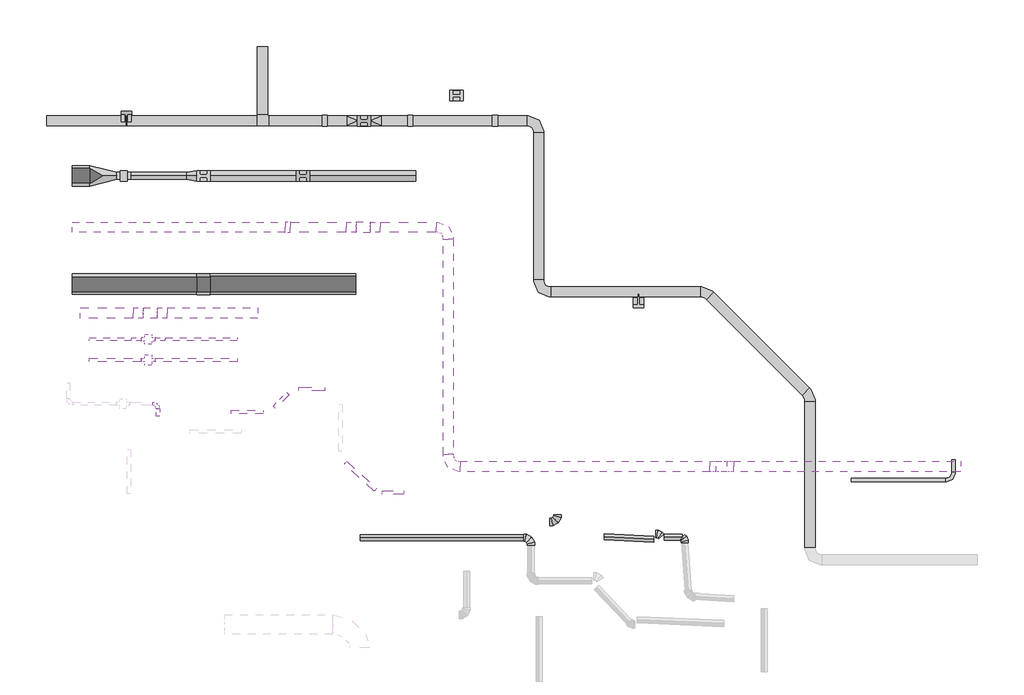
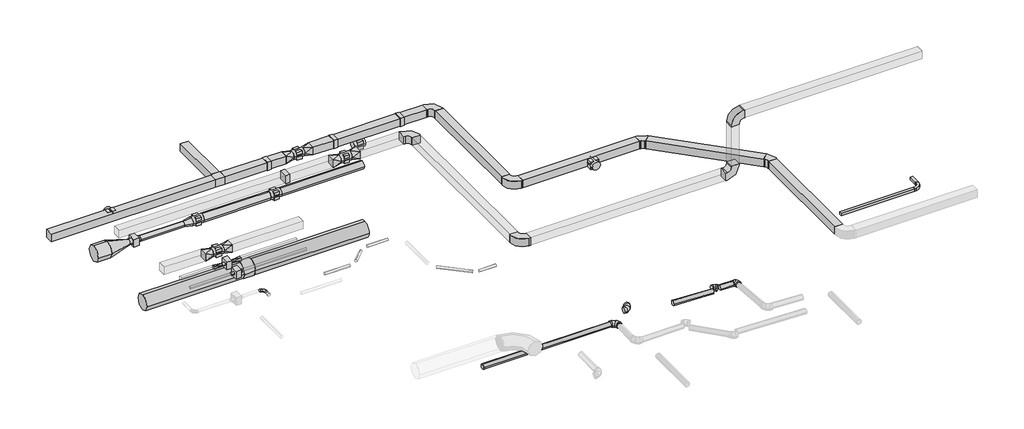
# One storey, part 3 of 3: 41 duct segments, 25 duct fittings, 16 dampers.
"""IFC4 building model written with IfcOpenShell, lengths in millimetres."""

from ifc_helpers import new_model, si_unit, point, frame, frame_2d, origin, place, context, project, spatial, polyline, circle_curve, trimmed, segment, composite_curve, outline, extrude, transform, mapped, element, save
from components import damper_0c93a5dd, damper_ff8d0813, damper_bce11e16, damper_74110298, damper_48ec160e, duct_fitting_2c290df5, duct_fitting_4f8e1142, duct_fitting_99cd3f61, duct_fitting_a30e5cd5, duct_fitting_a57c2913, duct_fitting_9d7b7e6b, duct_fitting_752f6e0b, duct_fitting_a8517f71, duct_fitting_6987a024, duct_fitting_e2463d5c, duct_fitting_11af5ff6, duct_fitting_1_5_d_8d1b72b4

model = new_model("IFC4")

# Units and contexts
model_context = context("Model", 3, world=origin())
ifc_project = project(units=[si_unit("LENGTHUNIT", "METRE", prefix="MILLI")], contexts=[model_context])

# Site, building, storey
site = spatial("IfcSite", under=ifc_project)
building = spatial("IfcBuilding", under=site)
storey = spatial("IfcBuildingStorey", under=building, Name="Уровень 1", Elevation=0.0)

# Dampers
placement = place(None, origin())
damper_shape = damper_0c93a5dd(model_context)
element("IfcDamper", 1, ObjectType="M_Противопожарный демпфер - Прямоугольный - Простой : Стандартное", at=placement, inside=storey, context=model_context, shape_type="MappedRepresentation", body=[
    mapped(damper_shape, transform((-9775.4202347, 9458.2450975, 2750.0), x_axis=(-1.0, 0.0, 0.0), y_axis=(0.0, 1.0, 0.0), z_axis=(0.0, 0.0, -1.0))),
])
element("IfcDamper", 2, ObjectType="M_Противопожарный демпфер - Прямоугольный - Простой : Стандартное", at=placement, inside=storey, context=model_context, shape_type="MappedRepresentation", body=[
    mapped(damper_shape, transform((-6189.1138294, 12570.5517507, 1000.0), x_axis=(-1.0, 0.0, 0.0), y_axis=(0.0, 1.0, 0.0), z_axis=(0.0, 0.0, -1.0))),
])
element("IfcDamper", 3, ObjectType="M_Противопожарный демпфер - Прямоугольный - Простой : Стандартное", at=placement, inside=storey, context=model_context, shape_type="MappedRepresentation", body=[
    mapped(damper_shape, transform((-8683.1649931, 12570.5517507, 1000.0), x_axis=(-1.0, 0.0, 0.0), y_axis=(0.0, 1.0, 0.0), z_axis=(0.0, 0.0, -1.0))),
])
element("IfcDamper", 4, ObjectType="M_Противопожарный демпфер - Прямоугольный - Простой : Стандартное", at=placement, inside=storey, context=model_context, shape_type="MappedRepresentation", body=[
    mapped(damper_shape, transform((-3705.3143272, 12570.5517507, 1000.0), x_axis=(1.0, 0.0, 0.0), y_axis=(0.0, -1.0, 0.0), z_axis=(0.0, 0.0, -1.0))),
])
damper_2_shape = damper_ff8d0813(model_context)
element("IfcDamper", 5, ObjectType="06_Клапан_Размер соединителя-2 : 02_Клапан_Геометрия", at=placement, inside=storey, context=model_context, shape_type="MappedRepresentation", body=[
    mapped(damper_2_shape, transform((-4834.007203, 13308.3419544, 0.0), x_axis=(1.0, 0.0, 0.0), y_axis=(0.0, 1.0, 0.0), z_axis=(0.0, 0.0, 1.0))),
])
element("IfcDamper", 6, ObjectType="06_Клапан_Размер соединителя-2 : 02_Клапан_Геометрия", at=placement, inside=storey, context=model_context, shape_type="MappedRepresentation", body=[
    mapped(damper_2_shape, transform((-14494.7036197, 12645.5517507, 1000.0), x_axis=(0.0, 1.0, 0.0), y_axis=(-1.0, 0.0, 0.0), z_axis=(0.0, 0.0, 1.0))),
])
element("IfcDamper", 7, ObjectType="06_Клапан_Размер соединителя-2 : 02_Клапан_Геометрия", at=placement, inside=storey, context=model_context, shape_type="MappedRepresentation", body=[
    mapped(damper_2_shape, transform((493.946574, 7295.5517507, 1000.0), x_axis=(0.0, -1.0, 0.0), y_axis=(1.0, 0.0, 0.0), z_axis=(0.0, 0.0, 1.0))),
])
element("IfcDamper", 8, ObjectType="06_Клапан_Размер соединителя-2 : 02_Клапан_Геометрия", at=placement, inside=storey, context=model_context, shape_type="MappedRepresentation", body=[
    mapped(damper_2_shape, transform((-7536.501235, 12570.5517507, 1000.0), x_axis=(-1.0, 0.0, 0.0), y_axis=(0.0, 1.0, 0.0), z_axis=(0.0, 0.0, -1.0))),
])
element("IfcDamper", 9, ObjectType="06_Клапан_Размер соединителя-2 : 02_Клапан_Геометрия", at=placement, inside=storey, context=model_context, shape_type="MappedRepresentation", body=[
    mapped(damper_2_shape, transform((-7563.4194422, 9458.2450975, 2750.0), x_axis=(-1.0, 0.0, 0.0), y_axis=(0.0, 1.0, 0.0), z_axis=(0.0, 0.0, -1.0))),
])
element("IfcDamper", 10, ObjectType="06_Клапан_Размер соединителя-2 : 02_Клапан_Геометрия", at=placement, inside=storey, context=model_context, shape_type="MappedRepresentation", body=[
    mapped(damper_2_shape, transform((-9321.3648344, 10960.1974756, 1000.0), x_axis=(-1.0, 0.0, 0.0), y_axis=(0.0, 1.0, 0.0), z_axis=(0.0, 0.0, -1.0))),
])
element("IfcDamper", 11, ObjectType="06_Клапан_Размер соединителя-2 : 02_Клапан_Геометрия", at=placement, inside=storey, context=model_context, shape_type="MappedRepresentation", body=[
    mapped(damper_2_shape, transform((-12231.8206268, 10960.1974756, 1000.0), x_axis=(1.0, 0.0, 0.0), y_axis=(0.0, -1.0, 0.0), z_axis=(0.0, 0.0, -1.0))),
])
element("IfcDamper", 12, ObjectType="06_Клапан_Размер соединителя-2 : 02_Клапан_Геометрия", at=placement, inside=storey, context=model_context, shape_type="MappedRepresentation", body=[
    mapped(damper_2_shape, transform((-13795.6135805, 6945.790393, 2750.0), x_axis=(-1.0, 0.0, 0.0), y_axis=(0.0, 1.0, 0.0), z_axis=(0.0, 0.0, -1.0))),
])
damper_3_shape = damper_bce11e16(model_context)
element("IfcDamper", 13, ObjectType="06_Клапан_Размер соединителя-2 : 02_Клапан_Геометрия", at=placement, inside=storey, context=model_context, shape_type="MappedRepresentation", body=[
    mapped(damper_3_shape, transform((-14568.1259124, 10960.1974756, 1000.0), x_axis=(1.0, 0.0, 0.0), y_axis=(0.0, -1.0, 0.0), z_axis=(0.0, 0.0, -1.0))),
])
damper_4_shape = damper_74110298(model_context)
element("IfcDamper", 14, ObjectType="06_Клапан_Размер соединителя-2 : 02_Клапан_Геометрия", at=placement, inside=storey, context=model_context, shape_type="MappedRepresentation", body=[
    mapped(damper_4_shape, transform((-12231.8206268, 7794.5757224, 1000.0), x_axis=(-1.0, 0.0, 0.0), y_axis=(0.0, 1.0, 0.0), z_axis=(0.0, 0.0, -1.0))),
])
damper_5_shape = damper_48ec160e(model_context)
element("IfcDamper", 15, ObjectType="06_Клапан_Размер соединителя-2 : 02_Клапан_Геометрия", at=placement, inside=storey, context=model_context, shape_type="MappedRepresentation", body=[
    mapped(damper_5_shape, transform((-13851.8196439, 6179.5294121, 2750.0), x_axis=(-1.0, 0.0, 0.0), y_axis=(0.0, 1.0, 0.0), z_axis=(0.0, 0.0, -1.0))),
])
element("IfcDamper", 16, ObjectType="06_Клапан_Размер соединителя-2 : 02_Клапан_Геометрия", at=placement, inside=storey, context=model_context, shape_type="MappedRepresentation", body=[
    mapped(damper_5_shape, transform((-13851.8196439, 5570.4133082, 2750.0), x_axis=(-1.0, 0.0, 0.0), y_axis=(0.0, 1.0, 0.0), z_axis=(0.0, 0.0, -1.0))),
])

# Duct fittings
duct_fitting_shape = duct_fitting_2c290df5(model_context)
element("IfcDuctFitting", 17, ObjectType="M_Тройник прямоугольного сечения : Стандартное", at=placement, inside=storey, context=model_context, shape_type="MappedRepresentation", body=[
    mapped(duct_fitting_shape, transform((-10506.2349188, 12570.5517507, 1000.0), x_axis=(-1.0, 0.0, 0.0), y_axis=(0.0, -1.0, 0.0), z_axis=(0.0, 0.0, 1.0))),
])
duct_fitting_2_shape = duct_fitting_4f8e1142(model_context)
element("IfcDuctFitting", 18, ObjectType="Отвод прямоугольного сечения : Стандартное", at=placement, inside=storey, context=model_context, shape_type="MappedRepresentation", body=[
    mapped(duct_fitting_2_shape, transform((9715.7471245, 2056.8482103, 0.0), x_axis=(1.0, 0.0, 0.0), y_axis=(0.0, 1.0, 0.0), z_axis=(0.0, 0.0, 1.0))),
])
duct_fitting_3_shape = duct_fitting_99cd3f61(model_context)
element("IfcDuctFitting", 19, ObjectType="Отвод прямоугольного сечения : Стандартное", at=placement, inside=storey, context=model_context, shape_type="MappedRepresentation", body=[
    mapped(duct_fitting_3_shape, transform((-5076.4186496, 9458.2450975, 2750.0), x_axis=(0.0, 1.0, 0.0), y_axis=(-1.0, 0.0, 0.0), z_axis=(0.0, 0.0, 1.0))),
])
element("IfcDuctFitting", 20, ObjectType="Отвод прямоугольного сечения : Стандартное", at=placement, inside=storey, context=model_context, shape_type="MappedRepresentation", body=[
    mapped(duct_fitting_3_shape, transform((-5076.4186496, 2458.2450975, 2750.0), x_axis=(0.0, -1.0, 0.0), y_axis=(1.0, 0.0, 0.0), z_axis=(0.0, 0.0, 1.0))),
])
element("IfcDuctFitting", 21, ObjectType="Отвод прямоугольного сечения : Стандартное", at=placement, inside=storey, context=model_context, shape_type="MappedRepresentation", body=[
    mapped(duct_fitting_3_shape, transform((2923.5813504, 2458.2450975, 2750.0), x_axis=(1.0, 0.0, 0.0), y_axis=(0.0, 0.0, 1.0), z_axis=(0.0, -1.0, 0.0))),
])
element("IfcDuctFitting", 22, ObjectType="Отвод прямоугольного сечения : Стандартное", at=placement, inside=storey, context=model_context, shape_type="MappedRepresentation", body=[
    mapped(duct_fitting_3_shape, transform((2923.5813504, 2458.2450975, 5000.0), x_axis=(0.0, 0.0, 1.0), y_axis=(1.0, 0.0, 0.0), z_axis=(0.0, 1.0, 0.0))),
])
element("IfcDuctFitting", 23, ObjectType="Отвод прямоугольного сечения : Стандартное", at=placement, inside=storey, context=model_context, shape_type="MappedRepresentation", body=[
    mapped(duct_fitting_3_shape, transform((-2428.4587957, 7570.5517507, 1000.0), x_axis=(0.0, -1.0, 0.0), y_axis=(1.0, 0.0, 0.0), z_axis=(0.0, 0.0, 1.0))),
])
element("IfcDuctFitting", 24, ObjectType="Отвод прямоугольного сечения : Стандартное", at=placement, inside=storey, context=model_context, shape_type="MappedRepresentation", body=[
    mapped(duct_fitting_3_shape, transform((-2428.4587957, 12570.5517507, 1000.0), x_axis=(0.0, 1.0, 0.0), y_axis=(-1.0, 0.0, 0.0), z_axis=(0.0, 0.0, 1.0))),
])
duct_fitting_4_shape = duct_fitting_a30e5cd5(model_context)
element("IfcDuctFitting", 25, ObjectType="Отвод прямоугольного сечения : Стандартное", at=placement, inside=storey, context=model_context, shape_type="MappedRepresentation", body=[
    mapped(duct_fitting_4_shape, transform((2471.5412043, 7570.5517507, 1000.0), x_axis=(-0.7071067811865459, 0.7071067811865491, 0.0), y_axis=(-0.7071067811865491, -0.7071067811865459, 0.0), z_axis=(0.0, 0.0, 1.0))),
])
element("IfcDuctFitting", 26, ObjectType="Отвод прямоугольного сечения : Стандартное", at=placement, inside=storey, context=model_context, shape_type="MappedRepresentation", body=[
    mapped(duct_fitting_4_shape, transform((5512.1003634, 4529.9925916, 1000.0), x_axis=(0.0, 1.0, 0.0), y_axis=(-1.0, 0.0, 0.0), z_axis=(0.0, 0.0, 1.0))),
])
duct_fitting_5_shape = duct_fitting_a57c2913(model_context)
element("IfcDuctFitting", 27, ObjectType="Переходник с круглого на прямоугольное сечение - Длина : Стандартное", at=placement, inside=storey, context=model_context, shape_type="MappedRepresentation", body=[
    mapped(duct_fitting_5_shape, transform((-7036.501235, 12570.5517507, 1000.0), x_axis=(-1.0, 0.0, 0.0), y_axis=(0.0, -1.0, 0.0), z_axis=(0.0, 0.0, 1.0))),
])
element("IfcDuctFitting", 28, ObjectType="Переходник с круглого на прямоугольное сечение - Длина : Стандартное", at=placement, inside=storey, context=model_context, shape_type="MappedRepresentation", body=[
    mapped(duct_fitting_5_shape, transform((-8036.501235, 12570.5517507, 1000.0), x_axis=(1.0, 0.0, 0.0), y_axis=(0.0, 1.0, 0.0), z_axis=(0.0, 0.0, 1.0))),
])
element("IfcDuctFitting", 29, ObjectType="Переходник с круглого на прямоугольное сечение - Длина : Стандартное", at=placement, inside=storey, context=model_context, shape_type="MappedRepresentation", body=[
    mapped(duct_fitting_5_shape, transform((-7063.4194422, 9458.2450975, 2750.0), x_axis=(-1.0, 0.0, 0.0), y_axis=(0.0, -1.0, 0.0), z_axis=(0.0, 0.0, 1.0))),
])
element("IfcDuctFitting", 30, ObjectType="Переходник с круглого на прямоугольное сечение - Длина : Стандартное", at=placement, inside=storey, context=model_context, shape_type="MappedRepresentation", body=[
    mapped(duct_fitting_5_shape, transform((-8063.4194422, 9458.2450975, 2750.0), x_axis=(1.0, 0.0, 0.0), y_axis=(0.0, 1.0, 0.0), z_axis=(0.0, 0.0, 1.0))),
])
element("IfcDuctFitting", 31, ObjectType="Переходник с круглого на прямоугольное сечение - Длина : Стандартное", at=placement, inside=storey, context=model_context, shape_type="MappedRepresentation", body=[
    mapped(duct_fitting_5_shape, transform((-14295.6135805, 6945.790393, 2750.0), x_axis=(1.0, 0.0, 0.0), y_axis=(0.0, 1.0, 0.0), z_axis=(0.0, 0.0, 1.0))),
])
element("IfcDuctFitting", 32, ObjectType="Переходник с круглого на прямоугольное сечение - Длина : Стандартное", at=placement, inside=storey, context=model_context, shape_type="MappedRepresentation", body=[
    mapped(duct_fitting_5_shape, transform((-13295.6135805, 6945.790393, 2750.0), x_axis=(-1.0, 0.0, 0.0), y_axis=(0.0, -1.0, 0.0), z_axis=(0.0, 0.0, 1.0))),
])
duct_fitting_6_shape = duct_fitting_9d7b7e6b(model_context)
element("IfcDuctFitting", 33, ObjectType="Переходник круглого сечения - Длина : Стандартное", at=placement, inside=storey, context=model_context, shape_type="MappedRepresentation", body=[
    mapped(duct_fitting_6_shape, transform((-12431.8206268, 10960.1974756, 1000.0), x_axis=(-1.0, 0.0, 0.0), y_axis=(0.0, -1.0, 0.0), z_axis=(0.0, 0.0, 1.0))),
])
duct_fitting_7_shape = duct_fitting_752f6e0b(model_context)
element("IfcDuctFitting", 34, ObjectType="Переходник круглого сечения - Длина : Стандартное", at=placement, inside=storey, context=model_context, shape_type="MappedRepresentation", body=[
    mapped(duct_fitting_7_shape, transform((-14768.1259124, 10960.1974756, 1000.0), x_axis=(-1.0, 0.0, 0.0), y_axis=(0.0, -1.0, 0.0), z_axis=(0.0, 0.0, 1.0))),
])
duct_fitting_8_shape = duct_fitting_a8517f71(model_context)
element("IfcDuctFitting", 35, ObjectType="Переходник с круглого на прямоугольное сечение - Длина : Стандартное", at=placement, inside=storey, context=model_context, shape_type="MappedRepresentation", body=[
    mapped(duct_fitting_8_shape, transform((-13351.8196439, 6179.5294121, 2750.0), x_axis=(-1.0, 0.0, 0.0), y_axis=(0.0, -1.0, 0.0), z_axis=(0.0, 0.0, 1.0))),
])
element("IfcDuctFitting", 36, ObjectType="Переходник с круглого на прямоугольное сечение - Длина : Стандартное", at=placement, inside=storey, context=model_context, shape_type="MappedRepresentation", body=[
    mapped(duct_fitting_8_shape, transform((-14351.8196439, 6179.5294121, 2750.0), x_axis=(1.0, 0.0, 0.0), y_axis=(0.0, 1.0, 0.0), z_axis=(0.0, 0.0, 1.0))),
])
duct_fitting_9_shape = duct_fitting_6987a024(model_context)
element("IfcDuctFitting", 37, ObjectType="17_Отвод_Заключение : 10_Отвод_3D объект", at=placement, inside=storey, context=model_context, shape_type="MappedRepresentation", body=[
    mapped(duct_fitting_9_shape, transform((-2651.1464957, 371.254435, 0.0), x_axis=(0.0, 1.0, 0.0), y_axis=(-1.0, 0.0, 0.0), z_axis=(0.0, 0.0, 1.0))),
])
element("IfcDuctFitting", 38, ObjectType="17_Отвод_Заключение : 10_Отвод_3D объект", at=placement, inside=storey, context=model_context, shape_type="MappedRepresentation", body=[
    mapped(duct_fitting_9_shape, transform((-1880.7478471, 833.8542134, 0.0), x_axis=(1.0, 0.0, 0.0), y_axis=(0.0, 1.0, 0.0), z_axis=(0.0, 0.0, 1.0))),
])
duct_fitting_10_shape = duct_fitting_e2463d5c(model_context)
element("IfcDuctFitting", 39, ObjectType="17_Отвод_Заключение : 10_Отвод_3D объект", at=placement, inside=storey, context=model_context, shape_type="MappedRepresentation", body=[
    mapped(duct_fitting_10_shape, transform((1094.8228712, 478.2195209, 0.0), x_axis=(-0.6881343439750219, 0.7255832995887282, 0.0), y_axis=(-0.7255832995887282, -0.6881343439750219, 0.0), z_axis=(0.0, 0.0, 1.0))),
])
duct_fitting_11_shape = duct_fitting_11af5ff6(model_context)
element("IfcDuctFitting", 40, ObjectType="17_Отвод_Заключение : 10_Отвод_3D объект", at=placement, inside=storey, context=model_context, shape_type="MappedRepresentation", body=[
    mapped(duct_fitting_11_shape, transform((1847.6526506, 321.4935281, 0.0), x_axis=(0.0, 1.0, 0.0), y_axis=(-1.0, 0.0, 0.0), z_axis=(0.0, 0.0, 1.0))),
])
duct_fitting_1_5_d_shape = duct_fitting_1_5_d_8d1b72b4(model_context)
element("IfcDuctFitting", 41, ObjectType="M_Отвод круглого сечения : 1.5 D", at=placement, inside=storey, context=model_context, shape_type="MappedRepresentation", body=[
    mapped(duct_fitting_1_5_d_shape, transform((-13572.4563214, 4293.0138469, 2750.0), x_axis=(0.0, 1.0, 0.0), y_axis=(-1.0, 0.0, 0.0), z_axis=(0.0, 0.0, 1.0))),
])

# Duct segments
element("IfcDuctSegment", 42, ObjectType="Закругленные отводы / тройники", at=placement, inside=storey, context=model_context, shape_type="SweptSolid", body=[
    extrude(outline(polyline([(-7063.4194422, 9308.2450975), (-7063.4194422, 9608.2450975), (-5426.4186496, 9608.2450975), (-5426.4186496, 9308.2450975), (-7063.4194422, 9308.2450975)])), frame((0.0, 0.0, 2600.0), z_axis=(0.0, 0.0, 1.0), x_axis=(1.0, 0.0, 0.0)), (0.0, 0.0, 1.0), 300.0),
])
element("IfcDuctSegment", 43, ObjectType="Закругленные отводы / тройники", at=placement, inside=storey, context=model_context, shape_type="SweptSolid", body=[
    extrude(outline(polyline([(-5226.4186496, 9108.2450975), (-4926.4186496, 9108.2450975), (-4926.4186496, 2808.2450975), (-5226.4186496, 2808.2450975), (-5226.4186496, 9108.2450975)])), frame((0.0, 0.0, 2600.0), z_axis=(0.0, 0.0, 1.0), x_axis=(1.0, 0.0, 0.0)), (0.0, 0.0, 1.0), 300.0),
])
element("IfcDuctSegment", 44, ObjectType="Закругленные отводы / тройники", at=placement, inside=storey, context=model_context, shape_type="SweptSolid", body=[
    extrude(outline(polyline([(-4726.4186496, 2308.2450975), (-4726.4186496, 2608.2450975), (2573.5813504, 2608.2450975), (2573.5813504, 2308.2450975), (-4726.4186496, 2308.2450975)])), frame((0.0, 0.0, 2600.0), z_axis=(0.0, 0.0, 1.0), x_axis=(1.0, 0.0, 0.0)), (0.0, 0.0, 1.0), 300.0),
])
element("IfcDuctSegment", 45, ObjectType="Закругленные отводы / тройники", at=placement, inside=storey, context=model_context, shape_type="SweptSolid", body=[
    extrude(outline(polyline([(3273.5813504, 2308.2450975), (3273.5813504, 2608.2450975), (9923.5813504, 2608.2450975), (9923.5813504, 2308.2450975), (3273.5813504, 2308.2450975)])), frame((0.0, 0.0, 4850.0), z_axis=(0.0, 0.0, 1.0), x_axis=(1.0, 0.0, 0.0)), (0.0, 0.0, 1.0), 300.0),
])
element("IfcDuctSegment", 46, ObjectType="Закругленные отводы / тройники", at=placement, inside=storey, context=model_context, shape_type="SweptSolid", body=[
    extrude(outline(polyline([(3073.5813504, 2608.2450975), (3073.5813504, 2308.2450975), (2773.5813504, 2308.2450975), (2773.5813504, 2608.2450975), (3073.5813504, 2608.2450975)])), frame((0.0, 0.0, 3100.0), z_axis=(0.0, 0.0, 1.0), x_axis=(1.0, 0.0, 0.0)), (0.0, 0.0, 1.0), 1550.0),
])
element("IfcDuctSegment", 47, ObjectType="Закругленные отводы / тройники", at=placement, inside=storey, context=model_context, shape_type="SweptSolid", body=[
    extrude(outline(polyline([(-16076.4186496, 9308.2450975), (-16076.4186496, 9608.2450975), (-9850.4202347, 9608.2450975), (-9850.4202347, 9308.2450975), (-16076.4186496, 9308.2450975)])), frame((0.0, 0.0, 2600.0), z_axis=(0.0, 0.0, 1.0), x_axis=(1.0, 0.0, 0.0)), (0.0, 0.0, 1.0), 300.0),
])
element("IfcDuctSegment", 48, ObjectType="Закругленные отводы / тройники", at=placement, inside=storey, context=model_context, shape_type="SweptSolid", body=[
    extrude(outline(polyline([(-3780.3143272, 12720.5517507), (-3780.3143272, 12420.5517507), (-6114.1138294, 12420.5517507), (-6114.1138294, 12720.5517507), (-3780.3143272, 12720.5517507)])), frame((0.0, 0.0, 850.0), z_axis=(0.0, 0.0, 1.0), x_axis=(1.0, 0.0, 0.0)), (0.0, 0.0, 1.0), 300.0),
])
element("IfcDuctSegment", 49, ObjectType="Закругленные отводы / тройники", at=placement, inside=storey, context=model_context, shape_type="SweptSolid", body=[
    extrude(outline(polyline([(-2578.4587957, 12220.5517507), (-2278.4587957, 12220.5517507), (-2278.4587957, 7920.5517507), (-2578.4587957, 7920.5517507), (-2578.4587957, 12220.5517507)])), frame((0.0, 0.0, 850.0), z_axis=(0.0, 0.0, 1.0), x_axis=(1.0, 0.0, 0.0)), (0.0, 0.0, 1.0), 300.0),
])
element("IfcDuctSegment", 50, ObjectType="Закругленные отводы / тройники", at=placement, inside=storey, context=model_context, shape_type="SweptSolid", body=[
    extrude(outline(polyline([(-2078.4587957, 7420.5517507), (-2078.4587957, 7720.5517507), (2297.2771355, 7720.5517507), (2297.2771355, 7420.5517507), (-2078.4587957, 7420.5517507)])), frame((0.0, 0.0, 850.0), z_axis=(0.0, 0.0, 1.0), x_axis=(1.0, 0.0, 0.0)), (0.0, 0.0, 1.0), 300.0),
])
element("IfcDuctSegment", 51, ObjectType="Закругленные отводы / тройники", at=placement, inside=storey, context=model_context, shape_type="SweptSolid", body=[
    extrude(outline(polyline([(2488.6984918, 7341.2624289), (2700.8305261, 7553.3944632), (5494.9430758, 4759.2819135), (5282.8110415, 4547.1498792), (2488.6984918, 7341.2624289)])), frame((0.0, 0.0, 850.0), z_axis=(0.0, 0.0, 1.0), x_axis=(1.0, 0.0, 0.0)), (0.0, 0.0, 1.0), 300.0),
])
element("IfcDuctSegment", 52, ObjectType="Закругленные отводы / тройники", at=placement, inside=storey, context=model_context, shape_type="SweptSolid", body=[
    extrude(outline(polyline([(5362.1003634, 4355.7285229), (5662.1003634, 4355.7285229), (5662.1003634, 79.9925916), (5362.1003634, 79.9925916), (5362.1003634, 4355.7285229)])), frame((0.0, 0.0, 850.0), z_axis=(0.0, 0.0, 1.0), x_axis=(1.0, 0.0, 0.0)), (0.0, 0.0, 1.0), 300.0),
])
element("IfcDuctSegment", 53, ObjectType="Закругленные отводы / тройники", at=placement, inside=storey, context=model_context, shape_type="SweptSolid", body=[
    extrude(outline(polyline([(-10356.2349188, 12745.5517507), (-10656.2349188, 12745.5517507), (-10656.2349188, 14745.5517507), (-10356.2349188, 14745.5517507), (-10356.2349188, 12745.5517507)])), frame((0.0, 0.0, 850.0), z_axis=(0.0, 0.0, 1.0), x_axis=(1.0, 0.0, 0.0)), (0.0, 0.0, 1.0), 300.0),
])
element("IfcDuctSegment", 54, ObjectType="Закругленные отводы / тройники", at=placement, inside=storey, context=model_context, shape_type="SweptSolid", body=[
    extrude(outline(polyline([(-7036.501235, 12420.5517507), (-7036.501235, 12720.5517507), (-6264.1138294, 12720.5517507), (-6264.1138294, 12420.5517507), (-7036.501235, 12420.5517507)])), frame((0.0, 0.0, 850.0), z_axis=(0.0, 0.0, 1.0), x_axis=(1.0, 0.0, 0.0)), (0.0, 0.0, 1.0), 300.0),
])
element("IfcDuctSegment", 55, ObjectType="Закругленные отводы / тройники", at=placement, inside=storey, context=model_context, shape_type="SweptSolid", body=[
    extrude(outline(polyline([(-10681.2349188, 12720.5517507), (-10681.2349188, 12420.5517507), (-16828.4587957, 12420.5517507), (-16828.4587957, 12720.5517507), (-10681.2349188, 12720.5517507)])), frame((0.0, 0.0, 850.0), z_axis=(0.0, 0.0, 1.0), x_axis=(1.0, 0.0, 0.0)), (0.0, 0.0, 1.0), 300.0),
])
element("IfcDuctSegment", 56, ObjectType="Закругленные отводы / тройники", at=placement, inside=storey, context=model_context, shape_type="SweptSolid", body=[
    extrude(outline(polyline([(-10331.2349188, 12420.5517507), (-10331.2349188, 12720.5517507), (-8758.1649931, 12720.5517507), (-8758.1649931, 12420.5517507), (-10331.2349188, 12420.5517507)])), frame((0.0, 0.0, 850.0), z_axis=(0.0, 0.0, 1.0), x_axis=(1.0, 0.0, 0.0)), (0.0, 0.0, 1.0), 300.0),
])
element("IfcDuctSegment", 57, ObjectType="Закругленные отводы / тройники", at=placement, inside=storey, context=model_context, shape_type="SweptSolid", body=[
    extrude(outline(polyline([(-8608.1649931, 12420.5517507), (-8608.1649931, 12720.5517507), (-8036.501235, 12720.5517507), (-8036.501235, 12420.5517507), (-8608.1649931, 12420.5517507)])), frame((0.0, 0.0, 850.0), z_axis=(0.0, 0.0, 1.0), x_axis=(1.0, 0.0, 0.0)), (0.0, 0.0, 1.0), 300.0),
])
element("IfcDuctSegment", 58, ObjectType="Закругленные отводы / тройники", at=placement, inside=storey, context=model_context, shape_type="SweptSolid", body=[
    extrude(outline(polyline([(-9700.4202347, 9308.2450975), (-9700.4202347, 9608.2450975), (-8063.4194422, 9608.2450975), (-8063.4194422, 9308.2450975), (-9700.4202347, 9308.2450975)])), frame((0.0, 0.0, 2600.0), z_axis=(0.0, 0.0, 1.0), x_axis=(1.0, 0.0, 0.0)), (0.0, 0.0, 1.0), 300.0),
])
element("IfcDuctSegment", 59, ObjectType="Закругленные отводы / тройники", at=placement, inside=storey, context=model_context, shape_type="SweptSolid", body=[
    extrude(outline(polyline([(-2778.4587957, 12720.5517507), (-2778.4587957, 12420.5517507), (-3630.3143272, 12420.5517507), (-3630.3143272, 12720.5517507), (-2778.4587957, 12720.5517507)])), frame((0.0, 0.0, 850.0), z_axis=(0.0, 0.0, 1.0), x_axis=(1.0, 0.0, 0.0)), (0.0, 0.0, 1.0), 300.0),
])
element("IfcDuctSegment", 60, ObjectType="Врезки", at=placement, inside=storey, context=model_context, shape_type="SweptSolid", body=[
    extrude(outline(composite_curve([segment(trimmed(circle_curve(frame_2d((10960.1974756, 1000.0)), 150.0), [point((10810.1974756, 1000.0))], [point((10960.1974756, 1150.0))], False, "CARTESIAN"), True, "CONTINUOUS"), segment(trimmed(circle_curve(frame_2d((10960.1974756, 1000.0)), 150.0), [point((10960.1974756, 1150.0))], [point((11110.1974756, 1000.0))], False, "CARTESIAN"), True, "CONTINUOUS"), segment(trimmed(circle_curve(frame_2d((10960.1974756, 1000.0)), 150.0), [point((11110.1974756, 1000.0))], [point((10960.1974756, 850.0))], False, "CARTESIAN"), True, "CONTINUOUS"), segment(trimmed(circle_curve(frame_2d((10960.1974756, 1000.0)), 150.0), [point((10960.1974756, 850.0))], [point((10810.1974756, 1000.0))], False, "CARTESIAN"), True, "CONTINUOUS")], self_intersect=False)), frame((-9121.3648344, 0.0, 0.0), z_axis=(1.0, 0.0, 0.0), x_axis=(0.0, 1.0, 0.0)), (0.0, 0.0, 1.0), 3090.2652968),
])
element("IfcDuctSegment", 61, ObjectType="Врезки", at=placement, inside=storey, context=model_context, shape_type="SweptSolid", body=[
    extrude(outline(composite_curve([segment(trimmed(circle_curve(frame_2d((10960.1974756, 1000.0)), 300.0), [point((11260.1974756, 1000.0))], [point((10960.1974756, 700.0))], False, "CARTESIAN"), True, "CONTINUOUS"), segment(trimmed(circle_curve(frame_2d((10960.1974756, 1000.0)), 300.0), [point((10960.1974756, 700.0))], [point((10660.1974756, 1000.0))], False, "CARTESIAN"), True, "CONTINUOUS"), segment(trimmed(circle_curve(frame_2d((10960.1974756, 1000.0)), 300.0), [point((10660.1974756, 1000.0))], [point((10960.1974756, 1300.0))], False, "CARTESIAN"), True, "CONTINUOUS"), segment(trimmed(circle_curve(frame_2d((10960.1974756, 1000.0)), 300.0), [point((10960.1974756, 1300.0))], [point((11260.1974756, 1000.0))], False, "CARTESIAN"), True, "CONTINUOUS")], self_intersect=False)), frame((-16076.4186496, 0.0, 0.0), z_axis=(1.0, 0.0, 0.0), x_axis=(0.0, 1.0, 0.0)), (0.0, 0.0, 1.0), 508.2927373),
])
element("IfcDuctSegment", 62, ObjectType="Врезки", at=placement, inside=storey, context=model_context, shape_type="SweptSolid", body=[
    extrude(outline(composite_curve([segment(trimmed(circle_curve(frame_2d((10960.1974756, 1000.0)), 150.0), [point((11110.1974756, 1000.0))], [point((10960.1974756, 850.0))], False, "CARTESIAN"), True, "CONTINUOUS"), segment(trimmed(circle_curve(frame_2d((10960.1974756, 1000.0)), 150.0), [point((10960.1974756, 850.0))], [point((10810.1974756, 1000.0))], False, "CARTESIAN"), True, "CONTINUOUS"), segment(trimmed(circle_curve(frame_2d((10960.1974756, 1000.0)), 150.0), [point((10810.1974756, 1000.0))], [point((10960.1974756, 1150.0))], False, "CARTESIAN"), True, "CONTINUOUS"), segment(trimmed(circle_curve(frame_2d((10960.1974756, 1000.0)), 150.0), [point((10960.1974756, 1150.0))], [point((11110.1974756, 1000.0))], False, "CARTESIAN"), True, "CONTINUOUS")], self_intersect=False)), frame((-12031.8206268, 0.0, 0.0), z_axis=(1.0, 0.0, 0.0), x_axis=(0.0, 1.0, 0.0)), (0.0, 0.0, 1.0), 2510.4557923),
])
element("IfcDuctSegment", 63, ObjectType="Врезки", at=placement, inside=storey, context=model_context, shape_type="SweptSolid", body=[
    extrude(outline(composite_curve([segment(trimmed(circle_curve(frame_2d((10960.1974756, 1000.0)), 100.0), [point((11060.1974756, 1000.0))], [point((10960.1974756, 900.0))], False, "CARTESIAN"), True, "CONTINUOUS"), segment(trimmed(circle_curve(frame_2d((10960.1974756, 1000.0)), 100.0), [point((10960.1974756, 900.0))], [point((10860.1974756, 1000.0))], False, "CARTESIAN"), True, "CONTINUOUS"), segment(trimmed(circle_curve(frame_2d((10960.1974756, 1000.0)), 100.0), [point((10860.1974756, 1000.0))], [point((10960.1974756, 1100.0))], False, "CARTESIAN"), True, "CONTINUOUS"), segment(trimmed(circle_curve(frame_2d((10960.1974756, 1000.0)), 100.0), [point((10960.1974756, 1100.0))], [point((11060.1974756, 1000.0))], False, "CARTESIAN"), True, "CONTINUOUS")], self_intersect=False)), frame((-14368.1259124, 0.0, 0.0), z_axis=(1.0, 0.0, 0.0), x_axis=(0.0, 1.0, 0.0)), (0.0, 0.0, 1.0), 1636.3052856),
])
element("IfcDuctSegment", 64, ObjectType="Врезки", at=placement, inside=storey, context=model_context, shape_type="SweptSolid", body=[
    extrude(outline(composite_curve([segment(trimmed(circle_curve(frame_2d((7794.5757224, 1000.0)), 300.0), [point((7494.5757224, 1000.0))], [point((7794.5757224, 1300.0))], False, "CARTESIAN"), True, "CONTINUOUS"), segment(trimmed(circle_curve(frame_2d((7794.5757224, 1000.0)), 300.0), [point((7794.5757224, 1300.0))], [point((8094.5757224, 1000.0))], False, "CARTESIAN"), True, "CONTINUOUS"), segment(trimmed(circle_curve(frame_2d((7794.5757224, 1000.0)), 300.0), [point((8094.5757224, 1000.0))], [point((7794.5757224, 700.0))], False, "CARTESIAN"), True, "CONTINUOUS"), segment(trimmed(circle_curve(frame_2d((7794.5757224, 1000.0)), 300.0), [point((7794.5757224, 700.0))], [point((7494.5757224, 1000.0))], False, "CARTESIAN"), True, "CONTINUOUS")], self_intersect=False)), frame((-12031.8206268, 0.0, 0.0), z_axis=(1.0, 0.0, 0.0), x_axis=(0.0, 1.0, 0.0)), (0.0, 0.0, 1.0), 4255.4019771),
])
element("IfcDuctSegment", 65, ObjectType="Врезки", at=placement, inside=storey, context=model_context, shape_type="SweptSolid", body=[
    extrude(outline(composite_curve([segment(trimmed(circle_curve(frame_2d((7794.5757224, 1000.0)), 300.0), [point((7494.5757224, 1000.0))], [point((7794.5757224, 1300.0))], False, "CARTESIAN"), True, "CONTINUOUS"), segment(trimmed(circle_curve(frame_2d((7794.5757224, 1000.0)), 300.0), [point((7794.5757224, 1300.0))], [point((8094.5757224, 1000.0))], False, "CARTESIAN"), True, "CONTINUOUS"), segment(trimmed(circle_curve(frame_2d((7794.5757224, 1000.0)), 300.0), [point((8094.5757224, 1000.0))], [point((7794.5757224, 700.0))], False, "CARTESIAN"), True, "CONTINUOUS"), segment(trimmed(circle_curve(frame_2d((7794.5757224, 1000.0)), 300.0), [point((7794.5757224, 700.0))], [point((7494.5757224, 1000.0))], False, "CARTESIAN"), True, "CONTINUOUS")], self_intersect=False)), frame((-16076.4186496, 0.0, 0.0), z_axis=(1.0, 0.0, 0.0), x_axis=(0.0, 1.0, 0.0)), (0.0, 0.0, 1.0), 3644.5980229),
])
element("IfcDuctSegment", 66, ObjectType="Закругленные отводы / тройники", at=placement, inside=storey, context=model_context, shape_type="SweptSolid", body=[
    extrude(outline(polyline([(-13295.6135805, 6795.790393), (-13295.6135805, 7095.790393), (-10645.8361338, 7095.790393), (-10645.8361338, 6795.790393), (-13295.6135805, 6795.790393)])), frame((0.0, 0.0, 2600.0), z_axis=(0.0, 0.0, 1.0), x_axis=(1.0, 0.0, 0.0)), (0.0, 0.0, 1.0), 300.0),
])
element("IfcDuctSegment", 67, ObjectType="Закругленные отводы / тройники", at=placement, inside=storey, context=model_context, shape_type="SweptSolid", body=[
    extrude(outline(polyline([(-15845.8361338, 6795.790393), (-15845.8361338, 7095.790393), (-14295.6135805, 7095.790393), (-14295.6135805, 6795.790393), (-15845.8361338, 6795.790393)])), frame((0.0, 0.0, 2600.0), z_axis=(0.0, 0.0, 1.0), x_axis=(1.0, 0.0, 0.0)), (0.0, 0.0, 1.0), 300.0),
])
element("IfcDuctSegment", 68, ObjectType="Закругленные отводы / тройники", at=placement, inside=storey, context=model_context, shape_type="SweptSolid", body=[
    extrude(outline(polyline([(-13351.8196439, 6129.5294121), (-13351.8196439, 6229.5294121), (-11245.8361338, 6229.5294121), (-11245.8361338, 6129.5294121), (-13351.8196439, 6129.5294121)])), frame((0.0, 0.0, 2700.0), z_axis=(0.0, 0.0, 1.0), x_axis=(1.0, 0.0, 0.0)), (0.0, 0.0, 1.0), 100.0),
])
element("IfcDuctSegment", 69, ObjectType="Закругленные отводы / тройники", at=placement, inside=storey, context=model_context, shape_type="SweptSolid", body=[
    extrude(outline(polyline([(-14351.8196439, 6229.5294121), (-14351.8196439, 6129.5294121), (-15584.7500753, 6129.5294121), (-15584.7500753, 6229.5294121), (-14351.8196439, 6229.5294121)])), frame((0.0, 0.0, 2700.0), z_axis=(0.0, 0.0, 1.0), x_axis=(1.0, 0.0, 0.0)), (0.0, 0.0, 1.0), 100.0),
])
element("IfcDuctSegment", 70, ObjectType="Врезки", at=placement, inside=storey, context=model_context, shape_type="SweptSolid", body=[
    extrude(outline(composite_curve([segment(trimmed(circle_curve(frame_2d((5570.4133082, 2750.0)), 50.0), [point((5520.4133082, 2750.0))], [point((5570.4133082, 2800.0))], False, "CARTESIAN"), True, "CONTINUOUS"), segment(trimmed(circle_curve(frame_2d((5570.4133082, 2750.0)), 50.0), [point((5570.4133082, 2800.0))], [point((5620.4133082, 2750.0))], False, "CARTESIAN"), True, "CONTINUOUS"), segment(trimmed(circle_curve(frame_2d((5570.4133082, 2750.0)), 50.0), [point((5620.4133082, 2750.0))], [point((5570.4133082, 2700.0))], False, "CARTESIAN"), True, "CONTINUOUS"), segment(trimmed(circle_curve(frame_2d((5570.4133082, 2750.0)), 50.0), [point((5570.4133082, 2700.0))], [point((5520.4133082, 2750.0))], False, "CARTESIAN"), True, "CONTINUOUS")], self_intersect=False)), frame((-15584.7500753, 0.0, 0.0), z_axis=(1.0, 0.0, 0.0), x_axis=(0.0, 1.0, 0.0)), (0.0, 0.0, 1.0), 1532.9304314),
])
element("IfcDuctSegment", 71, ObjectType="Врезки", at=placement, inside=storey, context=model_context, shape_type="SweptSolid", body=[
    extrude(outline(composite_curve([segment(trimmed(circle_curve(frame_2d((5570.4133082, 2750.0)), 50.0), [point((5520.4133082, 2750.0))], [point((5570.4133082, 2800.0))], False, "CARTESIAN"), True, "CONTINUOUS"), segment(trimmed(circle_curve(frame_2d((5570.4133082, 2750.0)), 50.0), [point((5570.4133082, 2800.0))], [point((5620.4133082, 2750.0))], False, "CARTESIAN"), True, "CONTINUOUS"), segment(trimmed(circle_curve(frame_2d((5570.4133082, 2750.0)), 50.0), [point((5620.4133082, 2750.0))], [point((5570.4133082, 2700.0))], False, "CARTESIAN"), True, "CONTINUOUS"), segment(trimmed(circle_curve(frame_2d((5570.4133082, 2750.0)), 50.0), [point((5570.4133082, 2700.0))], [point((5520.4133082, 2750.0))], False, "CARTESIAN"), True, "CONTINUOUS")], self_intersect=False)), frame((-13651.8196439, 0.0, 0.0), z_axis=(1.0, 0.0, 0.0), x_axis=(0.0, 1.0, 0.0)), (0.0, 0.0, 1.0), 2405.9835101),
])
element("IfcDuctSegment", 72, ObjectType="Врезки", at=placement, inside=storey, context=model_context, shape_type="SweptSolid", body=[
    extrude(outline(composite_curve([segment(trimmed(circle_curve(frame_2d((2750.0, -13572.4563214)), 50.0), [point((2750.0, -13622.4563214))], [point((2700.0, -13572.4563214))], False, "CARTESIAN"), True, "CONTINUOUS"), segment(trimmed(circle_curve(frame_2d((2750.0, -13572.4563214)), 50.0), [point((2700.0, -13572.4563214))], [point((2750.0, -13522.4563214))], False, "CARTESIAN"), True, "CONTINUOUS"), segment(trimmed(circle_curve(frame_2d((2750.0, -13572.4563214)), 50.0), [point((2750.0, -13522.4563214))], [point((2800.0, -13572.4563214))], False, "CARTESIAN"), True, "CONTINUOUS"), segment(trimmed(circle_curve(frame_2d((2750.0, -13572.4563214)), 50.0), [point((2800.0, -13572.4563214))], [point((2750.0, -13622.4563214))], False, "CARTESIAN"), True, "CONTINUOUS")], self_intersect=False)), frame((0.0, 3933.0138469, 0.0), z_axis=(0.0, 1.0, 0.0), x_axis=(0.0, 0.0, 1.0)), (0.0, 0.0, 1.0), 210.0),
])
element("IfcDuctSegment", 73, ObjectType="Врезки", at=placement, inside=storey, context=model_context, shape_type="SweptSolid", body=[
    extrude(outline(composite_curve([segment(trimmed(circle_curve(frame_2d((4057.2596517, 2750.0)), 50.0), [point((4007.2596517, 2750.0))], [point((4057.2596517, 2800.0))], False, "CARTESIAN"), True, "CONTINUOUS"), segment(trimmed(circle_curve(frame_2d((4057.2596517, 2750.0)), 50.0), [point((4057.2596517, 2800.0))], [point((4107.2596517, 2750.0))], False, "CARTESIAN"), True, "CONTINUOUS"), segment(trimmed(circle_curve(frame_2d((4057.2596517, 2750.0)), 50.0), [point((4107.2596517, 2750.0))], [point((4057.2596517, 2700.0))], False, "CARTESIAN"), True, "CONTINUOUS"), segment(trimmed(circle_curve(frame_2d((4057.2596517, 2750.0)), 50.0), [point((4057.2596517, 2700.0))], [point((4007.2596517, 2750.0))], False, "CARTESIAN"), True, "CONTINUOUS")], self_intersect=False)), frame((-11416.5893121, 0.0, 0.0), z_axis=(1.0, 0.0, 0.0), x_axis=(0.0, 1.0, 0.0)), (0.0, 0.0, 1.0), 933.6038969),
])
element("IfcDuctSegment", 74, ObjectType="Врезки", at=placement, inside=storey, context=model_context, shape_type="SweptSolid", body=[
    extrude(outline(composite_curve([segment(trimmed(circle_curve(frame_2d((0.0, 50.0)), 50.0), [point((50.0000001, 50.0))], [point((0.0, 0.0))], False, "CARTESIAN"), True, "CONTINUOUS"), segment(trimmed(circle_curve(frame_2d((0.0, 50.0)), 50.0), [point((0.0, 0.0))], [point((-50.0, 50.0))], False, "CARTESIAN"), True, "CONTINUOUS"), segment(trimmed(circle_curve(frame_2d((0.0, 50.0)), 50.0), [point((-50.0, 50.0))], [point((0.0, 100.0))], False, "CARTESIAN"), True, "CONTINUOUS"), segment(trimmed(circle_curve(frame_2d((0.0, 50.0)), 50.0), [point((0.0, 100.0))], [point((50.0000001, 50.0))], False, "CARTESIAN"), True, "CONTINUOUS")], self_intersect=False)), frame((-10164.7873636, 4189.0616002, 2800.0), z_axis=(0.7071067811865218, 0.7071067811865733, 0.0), x_axis=(0.7071067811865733, -0.7071067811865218, 0.0)), (0.0, 0.0, 1.0), 567.2077939),
])
element("IfcDuctSegment", 75, ObjectType="Врезки", at=placement, inside=storey, context=model_context, shape_type="SweptSolid", body=[
    extrude(outline(composite_curve([segment(trimmed(circle_curve(frame_2d((4721.940026, 2750.0)), 50.0), [point((4671.940026, 2750.0))], [point((4721.940026, 2800.0))], False, "CARTESIAN"), True, "CONTINUOUS"), segment(trimmed(circle_curve(frame_2d((4721.940026, 2750.0)), 50.0), [point((4721.940026, 2800.0))], [point((4771.940026, 2750.0))], False, "CARTESIAN"), True, "CONTINUOUS"), segment(trimmed(circle_curve(frame_2d((4721.940026, 2750.0)), 50.0), [point((4771.940026, 2750.0))], [point((4721.940026, 2700.0))], False, "CARTESIAN"), True, "CONTINUOUS"), segment(trimmed(circle_curve(frame_2d((4721.940026, 2750.0)), 50.0), [point((4721.940026, 2700.0))], [point((4671.940026, 2750.0))], False, "CARTESIAN"), True, "CONTINUOUS")], self_intersect=False)), frame((-9445.5128347, 0.0, 0.0), z_axis=(1.0, 0.0, 0.0), x_axis=(0.0, 1.0, 0.0)), (0.0, 0.0, 1.0), 763.6038969),
])
element("IfcDuctSegment", 76, ObjectType="Врезки", at=placement, inside=storey, context=model_context, shape_type="SweptSolid", body=[
    extrude(outline(composite_curve([segment(trimmed(circle_curve(frame_2d((0.0, -50.0)), 50.0), [point((-50.0, -50.0))], [point((0.0, 0.0))], False, "CARTESIAN"), True, "CONTINUOUS"), segment(trimmed(circle_curve(frame_2d((0.0, -50.0)), 50.0), [point((0.0, 0.0))], [point((50.0, -50.0))], False, "CARTESIAN"), True, "CONTINUOUS"), segment(trimmed(circle_curve(frame_2d((0.0, -50.0)), 50.0), [point((50.0, -50.0))], [point((0.0, -100.0))], False, "CARTESIAN"), True, "CONTINUOUS"), segment(trimmed(circle_curve(frame_2d((0.0, -50.0)), 50.0), [point((0.0, -100.0))], [point((-50.0, -50.0))], False, "CARTESIAN"), True, "CONTINUOUS")], self_intersect=False)), frame((-7202.7716709, 1775.3006688, 2700.0), z_axis=(-0.7431448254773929, 0.6691306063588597, 0.0), x_axis=(0.6691306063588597, 0.7431448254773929, 0.0)), (0.0, 0.0, 1.0), 1184.4878811),
])
element("IfcDuctSegment", 77, ObjectType="Врезки", at=placement, inside=storey, context=model_context, shape_type="SweptSolid", body=[
    extrude(outline(composite_curve([segment(trimmed(circle_curve(frame_2d((1698.2441165, 2750.0)), 50.0), [point((1648.2441165, 2750.0))], [point((1698.2441165, 2800.0))], False, "CARTESIAN"), True, "CONTINUOUS"), segment(trimmed(circle_curve(frame_2d((1698.2441165, 2750.0)), 50.0), [point((1698.2441165, 2800.0))], [point((1748.2441165, 2750.0))], False, "CARTESIAN"), True, "CONTINUOUS"), segment(trimmed(circle_curve(frame_2d((1698.2441165, 2750.0)), 50.0), [point((1748.2441165, 2750.0))], [point((1698.2441165, 2700.0))], False, "CARTESIAN"), True, "CONTINUOUS"), segment(trimmed(circle_curve(frame_2d((1698.2441165, 2750.0)), 50.0), [point((1698.2441165, 2700.0))], [point((1648.2441165, 2750.0))], False, "CARTESIAN"), True, "CONTINUOUS")], self_intersect=False)), frame((-7002.032489, 0.0, 0.0), z_axis=(1.0, 0.0, 0.0), x_axis=(0.0, 1.0, 0.0)), (0.0, 0.0, 1.0), 624.8407895),
])
element("IfcDuctSegment", 78, ObjectType="Врезки 2", at=placement, inside=storey, context=model_context, shape_type="SweptSolid", body=[
    extrude(outline(composite_curve([segment(trimmed(circle_curve(frame_2d((371.254435, 0.0)), 90.0), [point((281.254435, 0.0))], [point((371.254435, 90.0))], False, "CARTESIAN"), True, "CONTINUOUS"), segment(trimmed(circle_curve(frame_2d((371.254435, 0.0)), 90.0), [point((371.254435, 90.0))], [point((461.254435, 0.0))], False, "CARTESIAN"), True, "CONTINUOUS"), segment(trimmed(circle_curve(frame_2d((371.254435, 0.0)), 90.0), [point((461.254435, 0.0))], [point((371.254435, -90.0))], False, "CARTESIAN"), True, "CONTINUOUS"), segment(trimmed(circle_curve(frame_2d((371.254435, 0.0)), 90.0), [point((371.254435, -90.0))], [point((281.254435, 0.0))], False, "CARTESIAN"), True, "CONTINUOUS")], self_intersect=False)), frame((-7651.1464957, 0.0, 0.0), z_axis=(1.0, 0.0, 0.0), x_axis=(0.0, 1.0, 0.0)), (0.0, 0.0, 1.0), 4784.0),
])
element("IfcDuctSegment", 79, ObjectType="Врезки 2", at=placement, inside=storey, context=model_context, shape_type="SweptSolid", body=[
    extrude(outline(composite_curve([segment(trimmed(circle_curve(frame_2d((0.0, -90.0)), 90.0), [point((-90.0, -90.0))], [point((0.0, 0.0))], False, "CARTESIAN"), True, "CONTINUOUS"), segment(trimmed(circle_curve(frame_2d((0.0, -90.0)), 90.0), [point((0.0, 0.0))], [point((89.9999999, -90.0))], False, "CARTESIAN"), True, "CONTINUOUS"), segment(trimmed(circle_curve(frame_2d((0.0, -90.0)), 90.0), [point((89.9999999, -90.0))], [point((0.0, -180.0))], False, "CARTESIAN"), True, "CONTINUOUS"), segment(trimmed(circle_curve(frame_2d((0.0, -90.0)), 90.0), [point((0.0, -180.0))], [point((-90.0, -90.0))], False, "CARTESIAN"), True, "CONTINUOUS")], self_intersect=False)), frame((938.0968785, 329.5825026, -90.0), z_axis=(-0.998840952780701, 0.0481326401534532, 0.0), x_axis=(0.0481326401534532, 0.998840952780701, 0.0)), (0.0, 0.0, 1.0), 1448.7554767),
])
element("IfcDuctSegment", 80, ObjectType="Врезки 2", at=placement, inside=storey, context=model_context, shape_type="SweptSolid", body=[
    extrude(outline(composite_curve([segment(trimmed(circle_curve(frame_2d((385.8511841, 0.0)), 90.0), [point((295.8511841, 0.0))], [point((385.8511841, 90.0))], False, "CARTESIAN"), True, "CONTINUOUS"), segment(trimmed(circle_curve(frame_2d((385.8511841, 0.0)), 90.0), [point((385.8511841, 90.0))], [point((475.8511841, 0.0))], False, "CARTESIAN"), True, "CONTINUOUS"), segment(trimmed(circle_curve(frame_2d((385.8511841, 0.0)), 90.0), [point((475.8511841, 0.0))], [point((385.8511841, -90.0))], False, "CARTESIAN"), True, "CONTINUOUS"), segment(trimmed(circle_curve(frame_2d((385.8511841, 0.0)), 90.0), [point((385.8511841, -90.0))], [point((295.8511841, 0.0))], False, "CARTESIAN"), True, "CONTINUOUS")], self_intersect=False)), frame((1243.4598895, 0.0, 0.0), z_axis=(1.0, 0.0, 0.0), x_axis=(0.0, 1.0, 0.0)), (0.0, 0.0, 1.0), 532.6421789),
])
element("IfcDuctSegment", 81, ObjectType="Закругленные отводы / врезки", at=placement, inside=storey, context=model_context, shape_type="SweptSolid", body=[
    extrude(outline(polyline([(6715.7471245, 2006.8482103), (6715.7471245, 2106.8482103), (9465.7471245, 2106.8482103), (9465.7471245, 2006.8482103), (6715.7471245, 2006.8482103)])), frame((0.0, 0.0, -50.0), z_axis=(0.0, 0.0, 1.0), x_axis=(1.0, 0.0, 0.0)), (0.0, 0.0, 1.0), 100.0),
])
element("IfcDuctSegment", 82, ObjectType="Закругленные отводы / врезки", at=placement, inside=storey, context=model_context, shape_type="SweptSolid", body=[
    extrude(outline(polyline([(9765.7471245, 2306.8482103), (9665.7471245, 2306.8482103), (9665.7471245, 2656.8482103), (9765.7471245, 2656.8482103), (9765.7471245, 2306.8482103)])), frame((0.0, 0.0, -50.0), z_axis=(0.0, 0.0, 1.0), x_axis=(1.0, 0.0, 0.0)), (0.0, 0.0, 1.0), 100.0),
])

save(model, "model.ifc")
